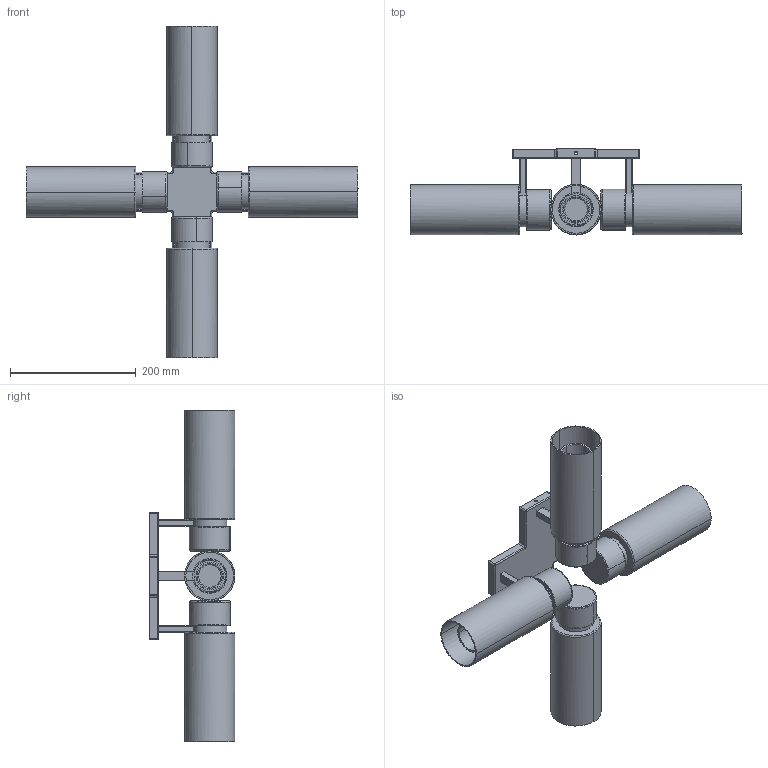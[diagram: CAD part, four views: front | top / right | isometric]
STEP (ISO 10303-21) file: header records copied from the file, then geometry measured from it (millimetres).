
FILE_DESCRIPTION(/* description */ (''),/* implementation_level */ '2;1');
FILE_NAME(/* name */ '5IS968~B',/* time_stamp */ '2022-06-22T08:35:54+02:00',/* author */ (''),/* organization */ (''),/* preprocessor_version */ 'ST-DEVELOPER v15',/* originating_system */ '',/* authorisation */ '');
FILE_SCHEMA (('AUTOMOTIVE_DESIGN'));
Length unit declared in the file: millimetre
Products named in the file (1): Document
Bounding box: 529 x 136.46 x 529 mm (x, y, z)
Volume: 791001.4 mm3; surface area: 774031.4 mm2
Topology: 21 solids, 21 shells, 478 faces, 1060 edges, 536 vertices
Faces by surface type: bspline 478
Entity records: 32344 total; most frequent: CARTESIAN_POINT 19820, B_SPLINE_CURVE_WITH_KNOTS 2263, ORIENTED_EDGE 1992, PCURVE 1992, DEFINITIONAL_REPRESENTATION 1992, SURFACE_CURVE 996, EDGE_CURVE 996, VERTEX_POINT 536
